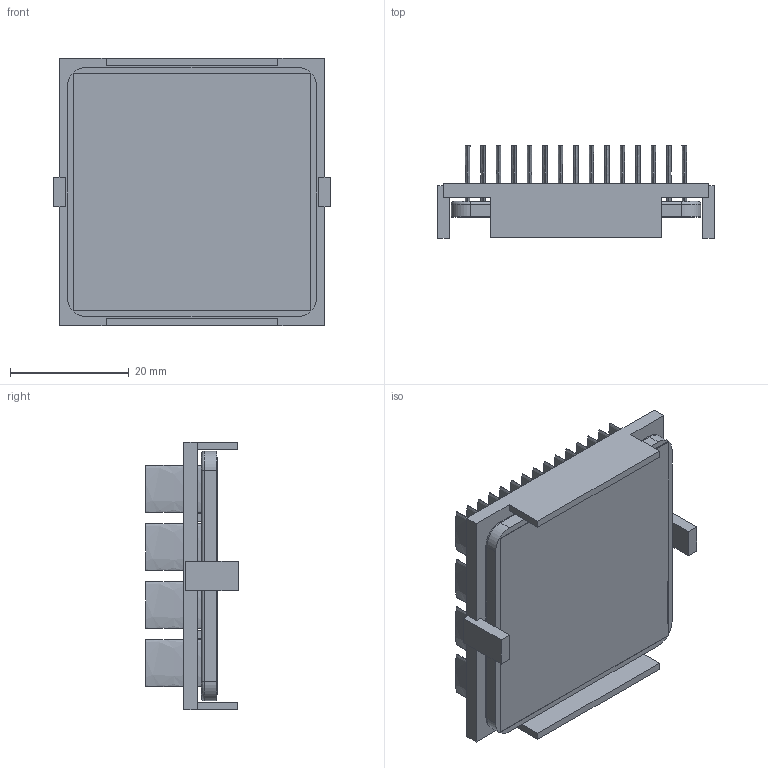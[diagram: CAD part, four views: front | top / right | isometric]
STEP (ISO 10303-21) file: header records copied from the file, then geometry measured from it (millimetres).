
FILE_DESCRIPTION (( 'STEP AP214' ), '1' );
FILE_NAME ('INM42.5001-12W-2.6Y.STEP', '2023-02-28T00:07:48', ( '' ), ( '' ), 'SwSTEP 2.0', 'SolidWorks 2020', '' );
FILE_SCHEMA (( 'AUTOMOTIVE_DESIGN' ));
Length unit declared in the file: inch
Products named in the file (1): INM42.5001-12W-2.6Y
Bounding box: 46.7 x 15.6 x 45.1 mm (x, y, z)
Volume: 9807.9 mm3; surface area: 19398.2 mm2
Topology: 3 solids, 3 shells, 258 faces, 568 edges, 376 vertices
Faces by surface type: plane 126, bspline 120, cylinder 8, torus 4
Entity records: 10728 total; most frequent: CARTESIAN_POINT 2763, ORIENTED_EDGE 1136, DIRECTION 626, EDGE_CURVE 568, VERTEX_POINT 376, EDGE_LOOP 320, LINE 308, VECTOR 308
